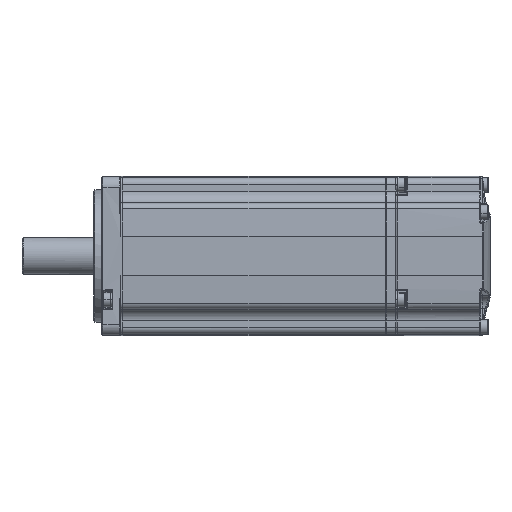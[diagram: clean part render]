
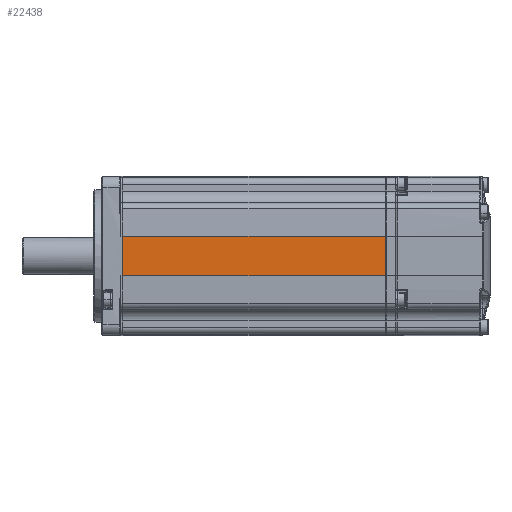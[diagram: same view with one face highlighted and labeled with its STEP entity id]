
A CAD part, front view. The second image highlights one B-rep face of the part: STEP entity #22438.
In plain terms, the highlighted planar face has unit normal (0, -1, 0).
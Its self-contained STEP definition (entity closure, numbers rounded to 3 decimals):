
#1563 = EDGE_LOOP ( 'NONE', ( #39970, #15037, #3505, #2820 ) ) ;
#2684 = CARTESIAN_POINT ( 'NONE',  ( 71.6, -30., 7.5 ) ) ;
#2820 = ORIENTED_EDGE ( 'NONE', *, *, #42717, .F. ) ;
#3505 = ORIENTED_EDGE ( 'NONE', *, *, #31869, .T. ) ;
#5340 = VERTEX_POINT ( 'NONE', #50204 ) ;
#5534 = CARTESIAN_POINT ( 'NONE',  ( 5.6, -30., 7.5 ) ) ;
#5934 = VERTEX_POINT ( 'NONE', #30743 ) ;
#6116 = VERTEX_POINT ( 'NONE', #24153 ) ;
#7179 = CARTESIAN_POINT ( 'NONE',  ( 104.6, -30., 2.5 ) ) ;
#7530 = DIRECTION ( 'NONE',  ( 1., 0., 0. ) ) ;
#9430 = CARTESIAN_POINT ( 'NONE',  ( 104.6, -30., -7.5 ) ) ;
#13606 = AXIS2_PLACEMENT_3D ( 'NONE', #28987, #33275, #7530 ) ;
#13838 = CARTESIAN_POINT ( 'NONE',  ( 71.6, -30., -7.5 ) ) ;
#15037 = ORIENTED_EDGE ( 'NONE', *, *, #28769, .F. ) ;
#15820 = B_SPLINE_CURVE_WITH_KNOTS ( 'NONE', 3,
 ( #9430, #13838, #48173, #22506 ),
 .UNSPECIFIED., .F., .F.,
 ( 4, 4 ),
 ( 0., 1. ),
 .UNSPECIFIED. ) ;
#22438 = ADVANCED_FACE ( 'NONE', ( #22789 ), #37433, .F. ) ;
#22506 = CARTESIAN_POINT ( 'NONE',  ( 5.6, -30., -7.5 ) ) ;
#22789 = FACE_OUTER_BOUND ( 'NONE', #1563, .T. ) ;
#22815 = CARTESIAN_POINT ( 'NONE',  ( 5.6, -30., -7.5 ) ) ;
#24153 = CARTESIAN_POINT ( 'NONE',  ( 104.6, -30., -7.5 ) ) ;
#28641 = CARTESIAN_POINT ( 'NONE',  ( 104.6, -30., -7.5 ) ) ;
#28769 = EDGE_CURVE ( 'NONE', #6116, #5934, #15820, .T. ) ;
#28987 = CARTESIAN_POINT ( 'NONE',  ( 105.1, -30., 7.5 ) ) ;
#30743 = CARTESIAN_POINT ( 'NONE',  ( 5.6, -30., -7.5 ) ) ;
#31358 = CARTESIAN_POINT ( 'NONE',  ( 5.6, -30., 2.5 ) ) ;
#31869 = EDGE_CURVE ( 'NONE', #6116, #5340, #55273, .T. ) ;
#32823 = CARTESIAN_POINT ( 'NONE',  ( 104.6, -30., 7.5 ) ) ;
#33275 = DIRECTION ( 'NONE',  ( 0., 1., 0. ) ) ;
#37265 = CARTESIAN_POINT ( 'NONE',  ( 104.6, -30., 7.5 ) ) ;
#37433 = PLANE ( 'NONE',  #13606 ) ;
#39056 = CARTESIAN_POINT ( 'NONE',  ( 5.6, -30., 7.5 ) ) ;
#39970 = ORIENTED_EDGE ( 'NONE', *, *, #42636, .F. ) ;
#41491 = CARTESIAN_POINT ( 'NONE',  ( 104.6, -30., -2.5 ) ) ;
#42548 = VERTEX_POINT ( 'NONE', #39056 ) ;
#42636 = EDGE_CURVE ( 'NONE', #5934, #42548, #51557, .T. ) ;
#42717 = EDGE_CURVE ( 'NONE', #42548, #5340, #51196, .T. ) ;
#45702 = CARTESIAN_POINT ( 'NONE',  ( 38.6, -30., 7.5 ) ) ;
#48173 = CARTESIAN_POINT ( 'NONE',  ( 38.6, -30., -7.5 ) ) ;
#48469 = CARTESIAN_POINT ( 'NONE',  ( 5.6, -30., -2.5 ) ) ;
#49961 = CARTESIAN_POINT ( 'NONE',  ( 5.6, -30., 7.5 ) ) ;
#50204 = CARTESIAN_POINT ( 'NONE',  ( 104.6, -30., 7.5 ) ) ;
#51196 = B_SPLINE_CURVE_WITH_KNOTS ( 'NONE', 3,
 ( #49961, #45702, #2684, #32823 ),
 .UNSPECIFIED., .F., .F.,
 ( 4, 4 ),
 ( 0., 1. ),
 .UNSPECIFIED. ) ;
#51557 = B_SPLINE_CURVE_WITH_KNOTS ( 'NONE', 3,
 ( #22815, #48469, #31358, #5534 ),
 .UNSPECIFIED., .F., .F.,
 ( 4, 4 ),
 ( -1., 0. ),
 .UNSPECIFIED. ) ;
#55273 = B_SPLINE_CURVE_WITH_KNOTS ( 'NONE', 3,
 ( #28641, #41491, #7179, #37265 ),
 .UNSPECIFIED., .F., .F.,
 ( 4, 4 ),
 ( 0., 1. ),
 .UNSPECIFIED. ) ;
